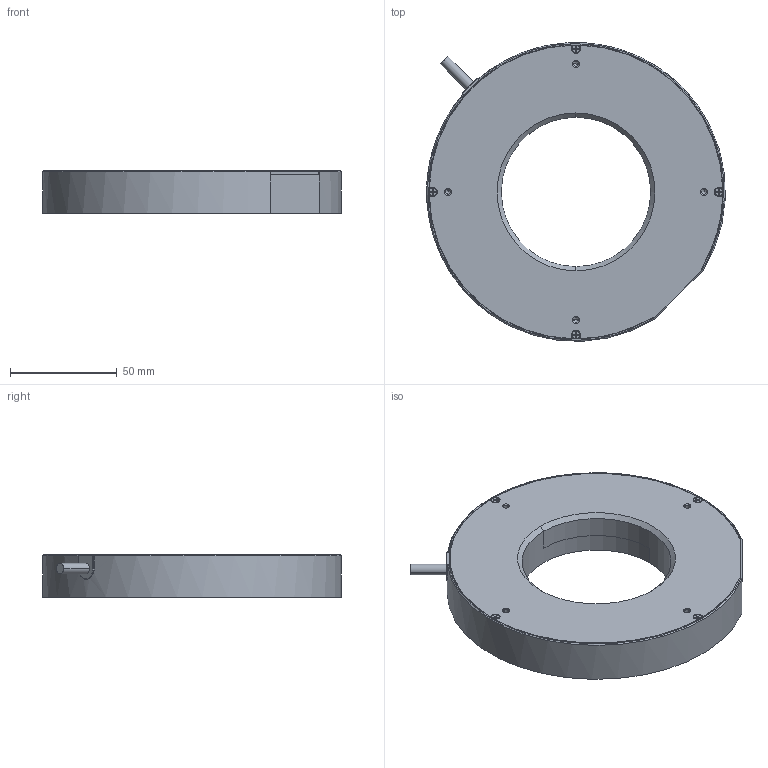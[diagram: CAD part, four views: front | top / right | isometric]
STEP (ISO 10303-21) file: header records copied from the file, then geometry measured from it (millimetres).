
FILE_DESCRIPTION((''),'2;1');
FILE_NAME('MV-LRDS-H-140-90-W','2022-09-02T15:57:25',('qiaoxuan5'),(''),'CREO PARAMETRIC BY PTC INC, 2020044','CREO PARAMETRIC BY PTC INC, 2020044','');
FILE_SCHEMA(('CONFIG_CONTROL_DESIGN'));
Length unit declared in the file: metre
Products named in the file (1): MV-LRDS-H-140-90-W
Bounding box: 139.87 x 139.87 x 20 mm (x, y, z)
Volume: 227898.3 mm3; surface area: 43795.4 mm2
Topology: 1 solids, 17 shells, 535 faces, 1275 edges, 747 vertices
Faces by surface type: plane 264, cylinder 152, cone 92, torus 21, sphere 6
Entity records: 15225 total; most frequent: CARTESIAN_POINT 2918, DIRECTION 2624, ORIENTED_EDGE 2490, EDGE_CURVE 1245, AXIS2_PLACEMENT_3D 944, VERTEX_POINT 747, VECTOR 736, LINE 736
